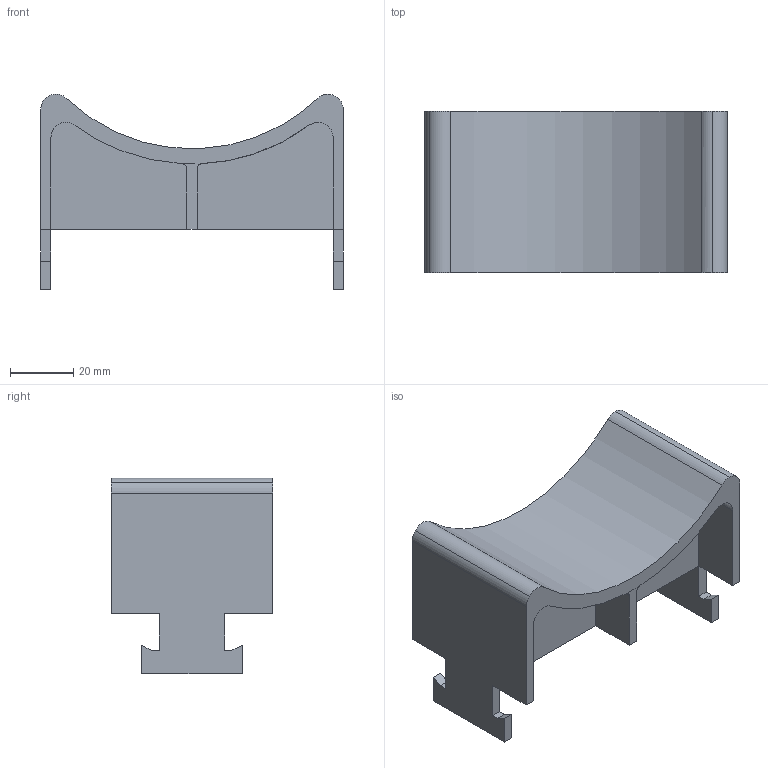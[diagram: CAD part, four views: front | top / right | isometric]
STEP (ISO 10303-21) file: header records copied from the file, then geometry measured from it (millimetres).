
FILE_DESCRIPTION(('TurboCAD Mac Pro'),'Build 980');
FILE_NAME('P1754FG.stp',' ',(''),(''),'ACIS Interop','IMSI','TurboCAD Mac Pro BY IMSI, INCORPORATED');
FILE_SCHEMA(('automotive_design'));
Length unit declared in the file: inch
Products named in the file (1): 1
Bounding box: 95.25 x 50.8 x 61.68 mm (x, y, z)
Volume: 91764.9 mm3; surface area: 27909.8 mm2
Topology: 1 solids, 1 shells, 64 faces, 206 edges, 138 vertices
Faces by surface type: plane 38, bspline 22, cylinder 4
Entity records: 3259 total; most frequent: CARTESIAN_POINT 729, ORIENTED_EDGE 412, DIRECTION 274, EDGE_CURVE 206, LINE 140, VECTOR 140, VERTEX_POINT 138, STYLED_ITEM 124
